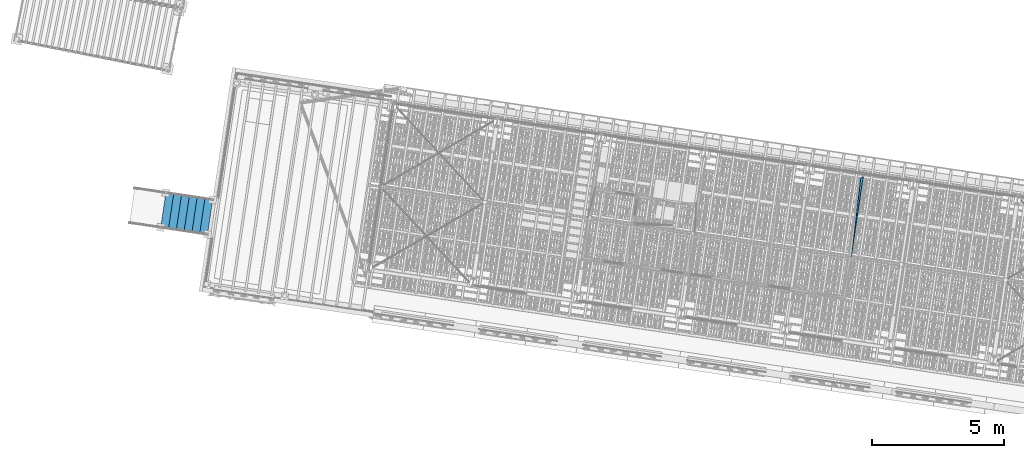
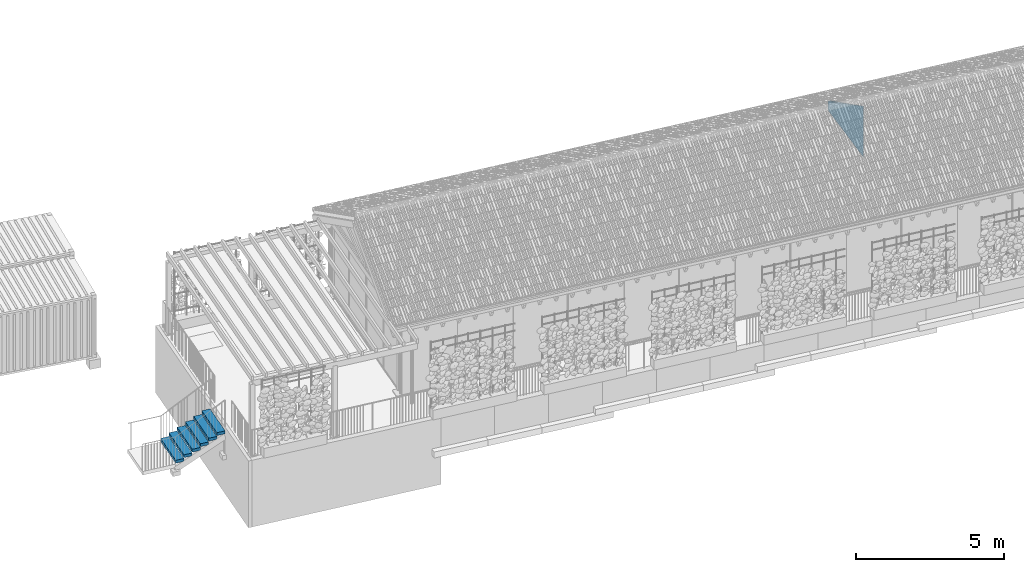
# One storey, part 120 of 128: 1 stair flight, 1 wall, 1 element without a shape of its own.
"""IFC4 building model written with IfcOpenShell, lengths in metres."""

from ifc_helpers import new_model, si_unit, direction, frame, origin_with_axes, place, context, subcontext, project, spatial, polyline, outline, extrude, polygons, material, element, aggregate, save


model = new_model("IFC4")

# Units and contexts
model_context = context("Model", 3, precision=1e-05, world=origin_with_axes(), true_north=direction((0.0, 1.0)))
body_context = subcontext(model_context, "Body", "Model", "MODEL_VIEW")
ifc_project = project(units=[si_unit("VOLUMEUNIT", "CUBIC_METRE"), si_unit("LENGTHUNIT", "METRE"), si_unit("AREAUNIT", "SQUARE_METRE")], contexts=[model_context])

# Site, building, storey
site_placement = place(None, origin_with_axes())
site = spatial("IfcSite", under=ifc_project, at=site_placement, Name="Lares · Rua das Mercês · artigo 4771")
building_placement = place(site_placement, frame((15.0, 9.7, 13.9), z_axis=(0.0, 0.0, 1.0), x_axis=(0.989015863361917, -0.147809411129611, 0.0)))
building = spatial("IfcBuilding", under=site, at=building_placement, Name="Casa Sobreposta")
storey_placement = place(building_placement, origin_with_axes())
storey = spatial("IfcBuildingStorey", under=building, at=storey_placement, Name="00 · Habitação e estacionamento", Elevation=13.9)

# Wall
ifc_material_1 = material(Name="OSB", Category="wood")
wall_placement = place(storey_placement, origin_with_axes())
element("IfcWall", 1, at=wall_placement, inside=storey, material=ifc_material_1, Name="Divisória · prolongamento até ao forro", context=body_context, shape_type="Tessellation", body=[
    polygons([(17.98, 6.21236749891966, 3.05), (18.0799999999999, 3.2, 3.05), (18.0799999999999, 6.29570083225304, 3.05), (17.98, 6.21236749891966, 3.42832967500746), (18.0799999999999, 3.2, 5.1675208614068), (18.0799999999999, 6.29570083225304, 3.38021715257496)], [[[3, 2, 1]], [[4, 5, 6]], [[1, 2, 5, 4]], [[2, 3, 6, 5]], [[3, 1, 4, 6]]]),
])

# Stair, stair flight
stair_placement = place(storey_placement, origin_with_axes())
stair = element("IfcStair", 2, at=stair_placement, inside=storey, Name="Jardim · escada pela fachada poente", PredefinedType="STRAIGHT_RUN_STAIR")
ifc_material_2 = material(Name="Betão armado / Stahlbeton", Category="concrete")
stair_flight_placement = place(stair_placement, origin_with_axes())
stair_flight = element("IfcStairFlight", 3, at=stair_flight_placement, material=ifc_material_2, Name="Jardim · lanço poente", NumberOfRisers=7, NumberOfTreads=6, PredefinedType="STRAIGHT", RiserHeight=0.151428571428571, TreadLength=0.3, context=body_context, shape_type="SweptSolid", body=[
    extrude(outline(polyline([(-6.25, 0.4), (-6.25, 1.8), (-6.55, 1.8), (-6.55, 0.4), (-6.25, 0.4)])), frame((0.0, 0.0, -0.311428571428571), z_axis=(0.0, 0.0, 1.0), x_axis=(1.0, 0.0, 0.0)), (0.0, 0.0, 1.0), 0.12),
    extrude(outline(polyline([(-6.55, 0.4), (-6.55, 1.8), (-6.85, 1.8), (-6.85, 0.4), (-6.55, 0.4)])), frame((0.0, 0.0, -0.462857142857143), z_axis=(0.0, 0.0, 1.0), x_axis=(1.0, 0.0, 0.0)), (0.0, 0.0, 1.0), 0.12),
    extrude(outline(polyline([(-6.85, 0.4), (-6.85, 1.8), (-7.15, 1.8), (-7.15, 0.4), (-6.85, 0.4)])), frame((0.0, 0.0, -0.614285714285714), z_axis=(0.0, 0.0, 1.0), x_axis=(1.0, 0.0, 0.0)), (0.0, 0.0, 1.0), 0.12),
    extrude(outline(polyline([(-7.15, 0.4), (-7.15, 1.8), (-7.45, 1.8), (-7.45, 0.4), (-7.15, 0.4)])), frame((0.0, 0.0, -0.765714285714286), z_axis=(0.0, 0.0, 1.0), x_axis=(1.0, 0.0, 0.0)), (0.0, 0.0, 1.0), 0.12),
    extrude(outline(polyline([(-7.45, 0.4), (-7.45, 1.8), (-7.75, 1.8), (-7.75, 0.4), (-7.45, 0.4)])), frame((0.0, 0.0, -0.917142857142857), z_axis=(0.0, 0.0, 1.0), x_axis=(1.0, 0.0, 0.0)), (0.0, 0.0, 1.0), 0.12),
    extrude(outline(polyline([(-7.75, 0.4), (-7.75, 1.8), (-8.05, 1.8), (-8.05, 0.4), (-7.75, 0.4)])), frame((0.0, 0.0, -1.06857142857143), z_axis=(0.0, 0.0, 1.0), x_axis=(1.0, 0.0, 0.0)), (0.0, 0.0, 1.0), 0.12),
])
aggregate(stair, [stair_flight])

save(model, "model.ifc")
